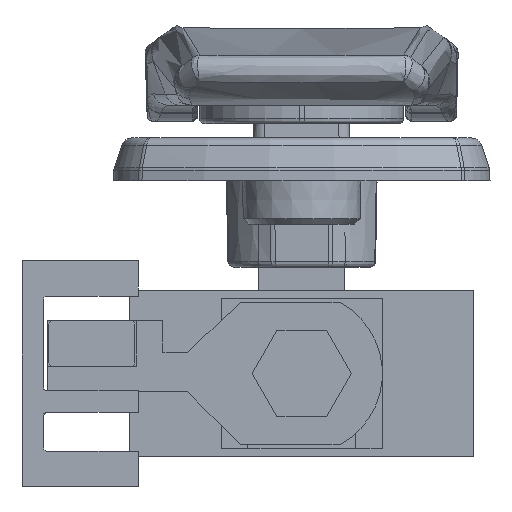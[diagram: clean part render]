
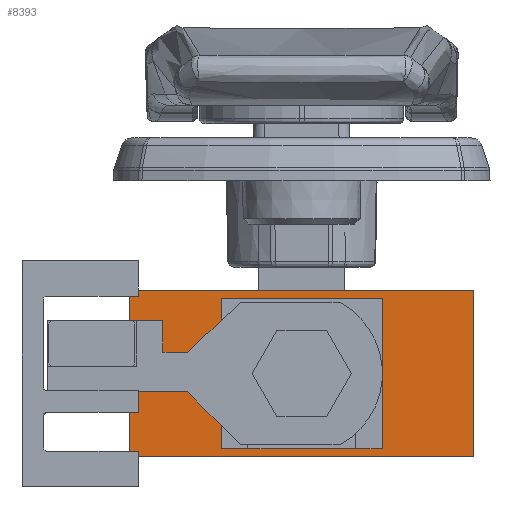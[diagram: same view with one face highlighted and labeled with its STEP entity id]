
A CAD part, front view. The second image highlights one B-rep face of the part: STEP entity #8393.
In plain terms, the highlighted planar face has unit normal (0, -1, 0).
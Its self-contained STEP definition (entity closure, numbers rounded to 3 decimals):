
#110 = LINE ( 'NONE', #5092, #24721 ) ;
#736 = DIRECTION ( 'NONE',  ( 0., 0., -1. ) ) ;
#848 = EDGE_CURVE ( 'NONE', #21153, #30277, #3977, .T. ) ;
#991 = DIRECTION ( 'NONE',  ( 0., 0., 1. ) ) ;
#1125 = DIRECTION ( 'NONE',  ( 0., 0., -1. ) ) ;
#1720 = DIRECTION ( 'NONE',  ( 1., 0., 0. ) ) ;
#1766 = FACE_BOUND ( 'NONE', #21593, .T. ) ;
#2526 = DIRECTION ( 'NONE',  ( 0., 0., -1. ) ) ;
#3339 = VECTOR ( 'NONE', #991, 1000. ) ;
#3440 = EDGE_CURVE ( 'NONE', #30277, #3903, #7732, .T. ) ;
#3903 = VERTEX_POINT ( 'NONE', #6001 ) ;
#3977 = LINE ( 'NONE', #6136, #4959 ) ;
#4559 = PLANE ( 'NONE',  #15239 ) ;
#4959 = VECTOR ( 'NONE', #27769, 1000. ) ;
#5092 = CARTESIAN_POINT ( 'NONE',  ( 7., -72.75, 6.25 ) ) ;
#5264 = LINE ( 'NONE', #19436, #23662 ) ;
#5946 = LINE ( 'NONE', #25415, #18048 ) ;
#6001 = CARTESIAN_POINT ( 'NONE',  ( 16., -72.75, -7.75 ) ) ;
#6136 = CARTESIAN_POINT ( 'NONE',  ( -16., -72.75, 7.75 ) ) ;
#6232 = CARTESIAN_POINT ( 'NONE',  ( -16., -72.75, -7.75 ) ) ;
#6425 = CARTESIAN_POINT ( 'NONE',  ( -16., -72.75, 7.75 ) ) ;
#6765 = CARTESIAN_POINT ( 'NONE',  ( -16., -72.75, 7.75 ) ) ;
#6883 = DIRECTION ( 'NONE',  ( 0., 1., 0. ) ) ;
#6926 = ORIENTED_EDGE ( 'NONE', *, *, #22311, .T. ) ;
#7673 = CARTESIAN_POINT ( 'NONE',  ( 7., -72.75, 6.25 ) ) ;
#7732 = LINE ( 'NONE', #26743, #12575 ) ;
#7752 = ORIENTED_EDGE ( 'NONE', *, *, #21327, .F. ) ;
#8393 = ADVANCED_FACE ( 'NONE', ( #1766, #25587 ), #4559, .F. ) ;
#9600 = DIRECTION ( 'NONE',  ( -1., 0., 0. ) ) ;
#9814 = CARTESIAN_POINT ( 'NONE',  ( -7., -72.75, -6.25 ) ) ;
#10044 = EDGE_CURVE ( 'NONE', #19733, #26700, #110, .T. ) ;
#11077 = CARTESIAN_POINT ( 'NONE',  ( 16., -72.75, 7.75 ) ) ;
#11496 = LINE ( 'NONE', #6232, #20341 ) ;
#12150 = LINE ( 'NONE', #9814, #30683 ) ;
#12575 = VECTOR ( 'NONE', #736, 1000. ) ;
#13687 = ORIENTED_EDGE ( 'NONE', *, *, #3440, .F. ) ;
#14064 = DIRECTION ( 'NONE',  ( 0., 0., 1. ) ) ;
#14709 = LINE ( 'NONE', #7673, #3339 ) ;
#15239 = AXIS2_PLACEMENT_3D ( 'NONE', #6425, #6883, #14064 ) ;
#16658 = EDGE_LOOP ( 'NONE', ( #6926, #13687, #21632, #25171 ) ) ;
#16784 = CARTESIAN_POINT ( 'NONE',  ( -7., -72.75, -6.25 ) ) ;
#17492 = CARTESIAN_POINT ( 'NONE',  ( -7., -72.75, 6.25 ) ) ;
#18048 = VECTOR ( 'NONE', #1125, 1000. ) ;
#18859 = VERTEX_POINT ( 'NONE', #16784 ) ;
#19436 = CARTESIAN_POINT ( 'NONE',  ( -7., -72.75, -6.25 ) ) ;
#19587 = VERTEX_POINT ( 'NONE', #27935 ) ;
#19733 = VERTEX_POINT ( 'NONE', #21699 ) ;
#19758 = ORIENTED_EDGE ( 'NONE', *, *, #10044, .F. ) ;
#20341 = VECTOR ( 'NONE', #1720, 1000. ) ;
#20560 = EDGE_CURVE ( 'NONE', #18859, #19587, #5264, .T. ) ;
#21153 = VERTEX_POINT ( 'NONE', #6765 ) ;
#21285 = EDGE_CURVE ( 'NONE', #26700, #18859, #12150, .T. ) ;
#21327 = EDGE_CURVE ( 'NONE', #19587, #19733, #14709, .T. ) ;
#21593 = EDGE_LOOP ( 'NONE', ( #22673, #19758, #7752, #27455 ) ) ;
#21632 = ORIENTED_EDGE ( 'NONE', *, *, #848, .F. ) ;
#21699 = CARTESIAN_POINT ( 'NONE',  ( 7., -72.75, 6.25 ) ) ;
#22087 = CARTESIAN_POINT ( 'NONE',  ( -16., -72.75, -7.75 ) ) ;
#22311 = EDGE_CURVE ( 'NONE', #28705, #3903, #11496, .T. ) ;
#22673 = ORIENTED_EDGE ( 'NONE', *, *, #21285, .F. ) ;
#23662 = VECTOR ( 'NONE', #23955, 1000. ) ;
#23955 = DIRECTION ( 'NONE',  ( 1., 0., 0. ) ) ;
#24721 = VECTOR ( 'NONE', #9600, 1000. ) ;
#25171 = ORIENTED_EDGE ( 'NONE', *, *, #29173, .T. ) ;
#25415 = CARTESIAN_POINT ( 'NONE',  ( -16., -72.75, 7.75 ) ) ;
#25587 = FACE_OUTER_BOUND ( 'NONE', #16658, .T. ) ;
#26700 = VERTEX_POINT ( 'NONE', #17492 ) ;
#26743 = CARTESIAN_POINT ( 'NONE',  ( 16., -72.75, 7.75 ) ) ;
#27455 = ORIENTED_EDGE ( 'NONE', *, *, #20560, .F. ) ;
#27769 = DIRECTION ( 'NONE',  ( 1., 0., 0. ) ) ;
#27935 = CARTESIAN_POINT ( 'NONE',  ( 7., -72.75, -6.25 ) ) ;
#28705 = VERTEX_POINT ( 'NONE', #22087 ) ;
#29173 = EDGE_CURVE ( 'NONE', #21153, #28705, #5946, .T. ) ;
#30277 = VERTEX_POINT ( 'NONE', #11077 ) ;
#30683 = VECTOR ( 'NONE', #2526, 1000. ) ;
